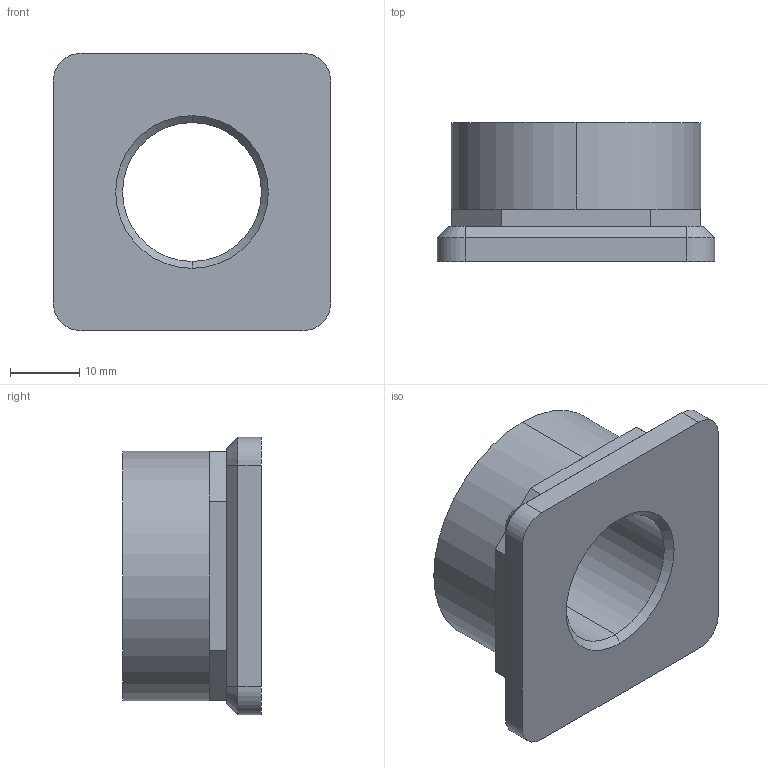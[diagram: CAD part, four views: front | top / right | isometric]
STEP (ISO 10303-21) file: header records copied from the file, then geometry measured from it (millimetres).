
FILE_DESCRIPTION (( 'STEP AP203' ), '1' );
FILE_NAME ('34670.W0041.step', '2017-06-26T08:13:14', ( 'User' ), ( '' ), 'SwSTEP 2.0', 'SolidWorks 2009', '' );
FILE_SCHEMA (( 'CONFIG_CONTROL_DESIGN' ));
Length unit declared in the file: millimetre
Products named in the file (1): 34670.W0041
Bounding box: 40 x 20 x 40 mm (x, y, z)
Volume: 17095.7 mm3; surface area: 6080.2 mm2
Topology: 1 solids, 1 shells, 39 faces, 90 edges, 54 vertices
Faces by surface type: plane 23, cone 8, cylinder 8
Entity records: 1167 total; most frequent: DIRECTION 196, CARTESIAN_POINT 184, ORIENTED_EDGE 180, EDGE_CURVE 90, AXIS2_PLACEMENT_3D 66, VECTOR 64, LINE 64, VERTEX_POINT 54
